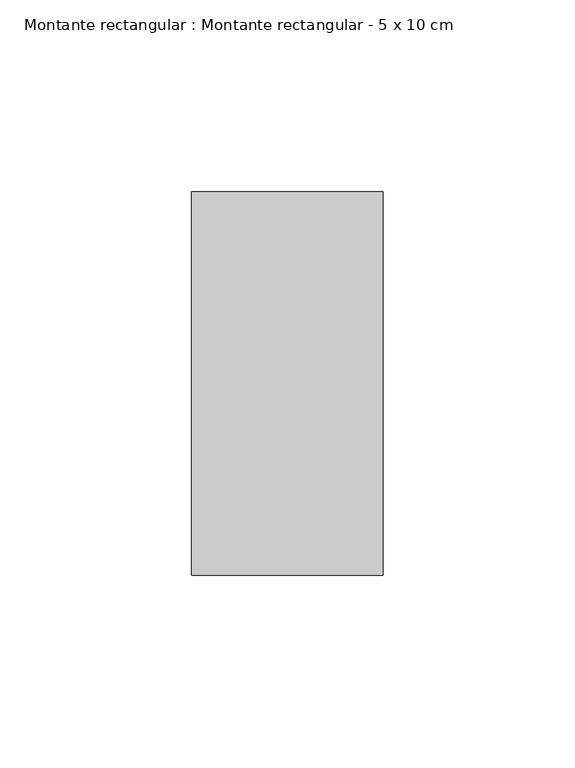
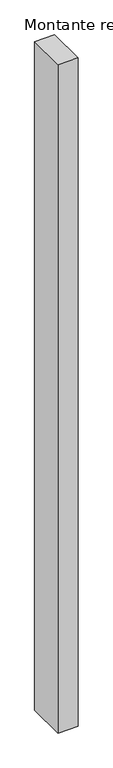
"""IFC4 building model written with IfcOpenShell, lengths in millimetres: member geometry, Montante rectangular : Montante rectangular - 5 x 10 cm."""

from ifc_helpers import new_model, si_unit, frame, origin, place, context, project, spatial, polyline, outline, extrude, source, transform, mapped, element, save


def montante_rectangular_montante_rectangular_5_x_10_cm_1fbef439(model_context):
    return source(origin(), model_context, "Body", "SweptSolid", [
        extrude(outline(polyline([(25.0, 50.0), (25.0, -50.0), (-25.0, -50.0), (-25.0, 50.0), (25.0, 50.0)])), frame((0.0, 0.0, -1760.2469864), z_axis=(0.0, 0.0, 1.0), x_axis=(1.0, 0.0, 0.0)), (0.0, 0.0, 1.0), 1760.2469864),
    ])


if __name__ == "__main__":
    model = new_model("IFC4")
    model_context = context("Model", 3, world=origin())
    ifc_project = project(units=[si_unit("LENGTHUNIT", "METRE", prefix="MILLI")], contexts=[model_context])
    site = spatial("IfcSite", under=ifc_project)
    building = spatial("IfcBuilding", under=site)
    placement = place(None, origin())
    montante_rectangular_montante_rectangular_5_x_10_cm_shape = montante_rectangular_montante_rectangular_5_x_10_cm_1fbef439(model_context)
    element("IfcMember", 1, ObjectType="Montante rectangular : Montante rectangular - 5 x 10 cm", at=placement, inside=building, context=model_context, shape_type="MappedRepresentation", body=[
        mapped(montante_rectangular_montante_rectangular_5_x_10_cm_shape, transform((0.0, 0.0, 0.0), x_axis=(1.0, 0.0, 0.0), y_axis=(0.0, 1.0, 0.0), z_axis=(0.0, 0.0, 1.0))),
    ])
    save(model, "model.ifc")
